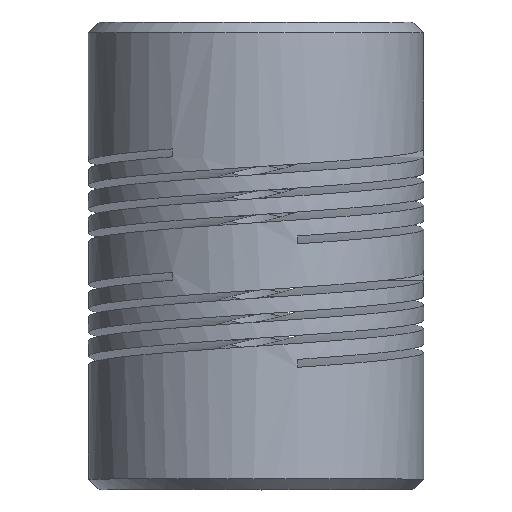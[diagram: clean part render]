
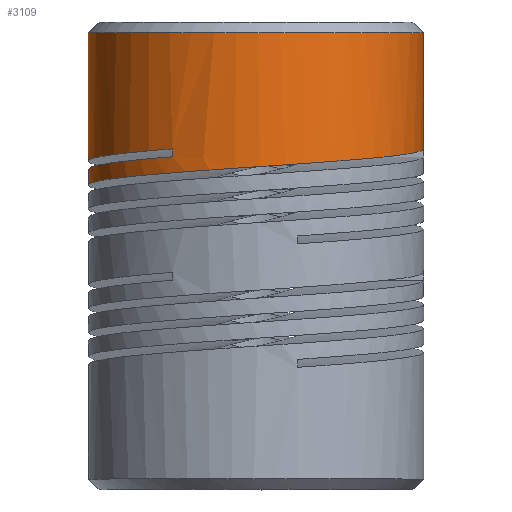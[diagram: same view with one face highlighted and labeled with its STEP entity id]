
A CAD part, top view. The second image highlights one B-rep face of the part: STEP entity #3109.
In plain terms, the highlighted free-form (B-spline) face has degree [1, 3] with [2, 13] control points.
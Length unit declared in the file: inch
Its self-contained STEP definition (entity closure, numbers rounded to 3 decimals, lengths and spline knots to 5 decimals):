
#116=CARTESIAN_POINT('',(0.37402,0.23858,
0.00003));
#117=CARTESIAN_POINT('',(0.37402,0.23453,
0.05927));
#118=CARTESIAN_POINT('',(0.34537,0.22644,
0.1777));
#119=CARTESIAN_POINT('',(0.22581,0.21429,
0.31603));
#120=CARTESIAN_POINT('',(0.05624,0.20214,
0.38432));
#121=CARTESIAN_POINT('',(-0.1258,0.18999,
0.36747));
#122=CARTESIAN_POINT('',(-0.27997,0.17784,
0.26921));
#123=CARTESIAN_POINT('',(-0.36016,0.16727,
0.13175));
#124=CARTESIAN_POINT('',(-0.37399,0.16074,
0.03626));
#125=CARTESIAN_POINT('',(-0.37401,0.15827,
0.00003));
#127=CARTESIAN_POINT('',(-0.37402,0.19409,
0.00003));
#128=CARTESIAN_POINT('',(-0.37403,0.19492,
0.01211));
#129=CARTESIAN_POINT('',(-0.37065,0.19979,
0.08343));
#130=CARTESIAN_POINT('',(-0.32655,0.20872,
0.21029));
#131=CARTESIAN_POINT('',(-0.23831,0.21682,
0.29432));
#132=CARTESIAN_POINT('',(-0.18701,0.22087,
0.32394));
#134=CARTESIAN_POINT('',(-0.18701,0.23858,
0.32394));
#135=CARTESIAN_POINT('',(-0.23831,0.23453,
0.29432));
#136=CARTESIAN_POINT('',(-0.32655,0.22643,
0.21028));
#137=CARTESIAN_POINT('',(-0.37065,0.21751,
0.08343));
#138=CARTESIAN_POINT('',(-0.37403,0.21264,
0.01211));
#139=CARTESIAN_POINT('',(-0.37402,0.21181,
0.00003));
#188=CARTESIAN_POINT('',(0.37402,0.49803,
0.00003));
#189=CARTESIAN_POINT('',(0.37402,0.49803,
0.02207));
#190=CARTESIAN_POINT('',(0.3701,0.49803,
0.0678));
#191=CARTESIAN_POINT('',(0.35025,0.49803,
0.13813));
#192=CARTESIAN_POINT('',(0.31542,0.49803,
0.20591));
#193=CARTESIAN_POINT('',(0.26638,0.49803,
0.26641));
#194=CARTESIAN_POINT('',(0.21596,0.49803,
0.30727));
#195=CARTESIAN_POINT('',(0.17199,0.49803,
0.33287));
#196=CARTESIAN_POINT('',(0.13778,0.49803,
0.3484));
#197=CARTESIAN_POINT('',(0.10293,0.49803,
0.36021));
#198=CARTESIAN_POINT('',(0.06798,0.49803,
0.36838));
#199=CARTESIAN_POINT('',(0.03923,0.49803,
0.37229));
#200=CARTESIAN_POINT('',(0.01662,0.49803,
0.3738));
#201=CARTESIAN_POINT('',(0.,0.49803,0.37417));
#202=CARTESIAN_POINT('',(-0.01662,0.49803,
0.3738));
#203=CARTESIAN_POINT('',(-0.03923,0.49803,
0.37229));
#204=CARTESIAN_POINT('',(-0.06798,0.49803,
0.36838));
#205=CARTESIAN_POINT('',(-0.10293,0.49803,
0.36021));
#206=CARTESIAN_POINT('',(-0.13778,0.49803,
0.3484));
#207=CARTESIAN_POINT('',(-0.17199,0.49803,
0.33287));
#208=CARTESIAN_POINT('',(-0.21596,0.49803,
0.30727));
#209=CARTESIAN_POINT('',(-0.26638,0.49803,
0.26641));
#210=CARTESIAN_POINT('',(-0.31542,0.49803,
0.20591));
#211=CARTESIAN_POINT('',(-0.35025,0.49803,
0.13813));
#212=CARTESIAN_POINT('',(-0.3701,0.49803,
0.0678));
#213=CARTESIAN_POINT('',(-0.37402,0.49803,
0.02207));
#214=CARTESIAN_POINT('',(-0.37402,0.49803,
0.00003));
#359=CARTESIAN_POINT('',(0.37402,0.49803,
0.00003));
#360=CARTESIAN_POINT('',(0.37402,0.41155,
0.00003));
#361=CARTESIAN_POINT('',(0.37402,0.32507,
0.00003));
#362=CARTESIAN_POINT('',(0.37402,0.23858,
0.00003));
#364=CARTESIAN_POINT('',(-0.37402,0.49803,
0.00003));
#365=CARTESIAN_POINT('',(-0.37402,0.40262,
0.00003));
#366=CARTESIAN_POINT('',(-0.37402,0.30722,
0.00003));
#367=CARTESIAN_POINT('',(-0.37402,0.21181,
0.00003));
#1341=CARTESIAN_POINT('',(-0.37402,0.19409,
0.00003));
#1342=CARTESIAN_POINT('',(-0.37402,0.18215,
0.00003));
#1343=CARTESIAN_POINT('',(-0.37401,0.17021,
0.00003));
#1344=CARTESIAN_POINT('',(-0.37401,0.15827,
0.00003));
#1530=DIRECTION('',(0.,1.,0.));
#1531=VECTOR('',#1530,0.01772);
#1532=CARTESIAN_POINT('',(-0.18701,0.22087,
0.32394));
#1533=LINE('',#1532,#1531);
#2891=CARTESIAN_POINT('',(-0.18701,0.22087,
0.32394));
#2893=VERTEX_POINT('',#2891);
#2934=CARTESIAN_POINT('',(-0.18701,0.23858,
0.32394));
#2936=VERTEX_POINT('',#2934);
#2942=CARTESIAN_POINT('',(0.37402,0.23858,
0.00003));
#2944=VERTEX_POINT('',#2942);
#2946=VERTEX_POINT('',#364);
#2947=VERTEX_POINT('',#367);
#2950=VERTEX_POINT('',#125);
#2951=VERTEX_POINT('',#127);
#2961=VERTEX_POINT('',#359);
#3064=CARTESIAN_POINT('',(-0.37402,0.50697,
0.00003));
#3065=CARTESIAN_POINT('',(-0.37402,0.50697,
0.21912));
#3066=CARTESIAN_POINT('',(-0.21909,0.50697,
0.37404));
#3067=CARTESIAN_POINT('',(0.,0.50697,0.37404));
#3068=CARTESIAN_POINT('',(0.21909,0.50697,
0.37404));
#3069=CARTESIAN_POINT('',(0.37402,0.50697,
0.21912));
#3070=CARTESIAN_POINT('',(0.37402,0.50697,
0.00003));
#3071=CARTESIAN_POINT('',(0.37402,0.50697,
-0.21907));
#3072=CARTESIAN_POINT('',(0.21909,0.50697,
-0.37399));
#3073=CARTESIAN_POINT('',(0.,0.50697,-0.37399));
#3074=CARTESIAN_POINT('',(-0.21909,0.50697,
-0.37399));
#3075=CARTESIAN_POINT('',(-0.37402,0.50697,
-0.21907));
#3076=CARTESIAN_POINT('',(-0.37402,0.50697,
0.00003));
#3077=CARTESIAN_POINT('',(-0.37402,-0.49803,
0.00003));
#3078=CARTESIAN_POINT('',(-0.37402,-0.49803,
0.21912));
#3079=CARTESIAN_POINT('',(-0.21909,-0.49803,
0.37404));
#3080=CARTESIAN_POINT('',(0.,-0.49803,0.37404));
#3081=CARTESIAN_POINT('',(0.21909,-0.49803,
0.37404));
#3082=CARTESIAN_POINT('',(0.37402,-0.49803,
0.21912));
#3083=CARTESIAN_POINT('',(0.37402,-0.49803,
0.00003));
#3084=CARTESIAN_POINT('',(0.37402,-0.49803,
-0.21907));
#3085=CARTESIAN_POINT('',(0.21909,-0.49803,
-0.37399));
#3086=CARTESIAN_POINT('',(0.,-0.49803,-0.37399));
#3087=CARTESIAN_POINT('',(-0.21909,-0.49803,
-0.37399));
#3088=CARTESIAN_POINT('',(-0.37402,-0.49803,
-0.21907));
#3089=CARTESIAN_POINT('',(-0.37402,-0.49803,
0.00003));
#3090=(BOUNDED_SURFACE()B_SPLINE_SURFACE(1,3,((#3064,#3065,#3066,#3067,#3068,
#3069,#3070,#3071,#3072,#3073,#3074,#3075,#3076),(#3077,#3078,#3079,#3080,#3081,
#3082,#3083,#3084,#3085,#3086,#3087,#3088,#3089)),.UNSPECIFIED.,.F.,.T.,.F.)B_SPLINE_SURFACE_WITH_KNOTS((2,2),(4,3,3,3,4),(0.03926,2.72632),(
-3.14159,-1.5708,0.,1.5708,3.14159),
.UNSPECIFIED.)GEOMETRIC_REPRESENTATION_ITEM()RATIONAL_B_SPLINE_SURFACE(((1.,
0.805,0.805,1.,0.805,0.805,
1.,0.805,0.805,1.,0.805,
0.805,1.),(1.,0.805,0.805,1.,
0.805,0.805,1.,0.805,0.805,
1.,0.805,0.805,1.)))REPRESENTATION_ITEM('')SURFACE(
));
#3092=ORIENTED_EDGE('',*,*,#3091,.F.);
#3094=ORIENTED_EDGE('',*,*,#3093,.T.);
#3096=ORIENTED_EDGE('',*,*,#3095,.T.);
#3098=ORIENTED_EDGE('',*,*,#3097,.F.);
#3100=ORIENTED_EDGE('',*,*,#3099,.T.);
#3102=ORIENTED_EDGE('',*,*,#3101,.T.);
#3104=ORIENTED_EDGE('',*,*,#3103,.T.);
#3106=ORIENTED_EDGE('',*,*,#3105,.F.);
#3107=EDGE_LOOP('',(#3092,#3094,#3096,#3098,#3100,#3102,#3104,#3106));
#3108=FACE_OUTER_BOUND('',#3107,.F.);
#126=B_SPLINE_CURVE_WITH_KNOTS('',3,(#116,#117,#118,#119,#120,#121,#122,#123,
#124,#125),.UNSPECIFIED.,.F.,.F.,(4,1,1,1,1,1,1,4),(0.,0.15125,0.3025,
0.45375,0.605,0.75625,0.9075,1.),.UNSPECIFIED.);
#133=B_SPLINE_CURVE_WITH_KNOTS('',3,(#127,#128,#129,#130,#131,#132),
.UNSPECIFIED.,.F.,.F.,(4,1,1,4),(0.,0.0925,0.54625,1.),.UNSPECIFIED.);
#140=B_SPLINE_CURVE_WITH_KNOTS('',3,(#134,#135,#136,#137,#138,#139),
.UNSPECIFIED.,.F.,.F.,(4,1,1,4),(0.,0.45375,0.9075,1.),.UNSPECIFIED.);
#215=B_SPLINE_CURVE_WITH_KNOTS('',3,(#188,#189,#190,#191,#192,#193,#194,#195,
#196,#197,#198,#199,#200,#201,#202,#203,#204,#205,#206,#207,#208,#209,#210,#211,
#212,#213,#214),.UNSPECIFIED.,.F.,.F.,(4,1,1,1,1,1,1,1,1,1,1,1,1,1,1,1,1,1,1,1,
1,1,1,1,4),(0.,0.0625,0.125,0.1875,0.25,0.3125,0.34375,0.375,
0.40625,0.4375,0.46875,0.48438,0.5,0.51563,0.53125,0.5625,
0.59375,0.625,0.65625,0.6875,0.75,0.8125,0.875,0.9375,1.),
.UNSPECIFIED.);
#363=B_SPLINE_CURVE_WITH_KNOTS('',3,(#359,#360,#361,#362),.UNSPECIFIED.,.F.,.F.,
(4,4),(0.,1.),.UNSPECIFIED.);
#368=B_SPLINE_CURVE_WITH_KNOTS('',3,(#364,#365,#366,#367),.UNSPECIFIED.,.F.,.F.,
(4,4),(0.,1.),.UNSPECIFIED.);
#1345=B_SPLINE_CURVE_WITH_KNOTS('',3,(#1341,#1342,#1343,#1344),.UNSPECIFIED.,
.F.,.F.,(4,4),(0.,1.),.UNSPECIFIED.);
#3091=EDGE_CURVE('',#2961,#2946,#215,.T.);
#3093=EDGE_CURVE('',#2961,#2944,#363,.T.);
#3095=EDGE_CURVE('',#2944,#2950,#126,.T.);
#3097=EDGE_CURVE('',#2951,#2950,#1345,.T.);
#3099=EDGE_CURVE('',#2951,#2893,#133,.T.);
#3101=EDGE_CURVE('',#2893,#2936,#1533,.T.);
#3103=EDGE_CURVE('',#2936,#2947,#140,.T.);
#3105=EDGE_CURVE('',#2946,#2947,#368,.T.);
#3109=ADVANCED_FACE('',(#3108),#3090,.T.);
